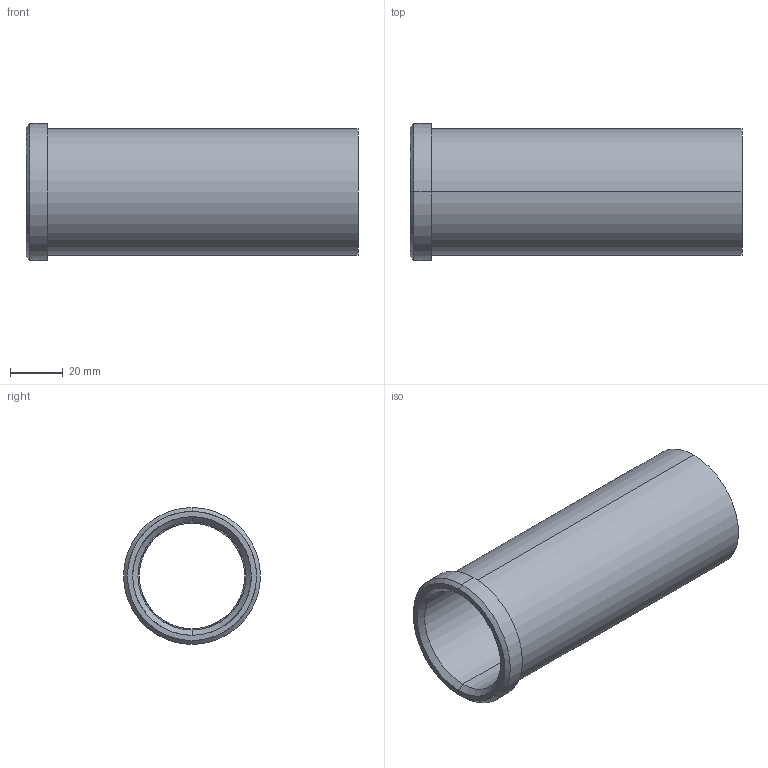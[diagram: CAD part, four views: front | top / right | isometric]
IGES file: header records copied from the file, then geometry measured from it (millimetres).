
Start section: START RECORD GO HERE.
Global section: file name: 353-40X126.igs; native system: DASSAULT SYSTEMES CATIA V5 R20 - www.3ds.com; preprocessor: CATIA Version 5 Release 20 ; author: Utente; organization: NB04-ASUS; date: 20210513.202009; units: millimetre
Bounding box: 126 x 52 x 52 mm (x, y, z)
Surface area: 36414.9 mm2 (no closed solid volume)
Topology: 0 solids, 0 shells, 18 faces, 116 edges, 116 vertices
Faces by surface type: revolution 14, plane 4
